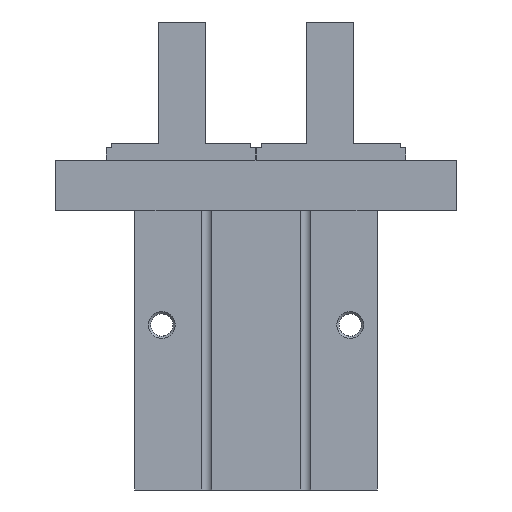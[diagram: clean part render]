
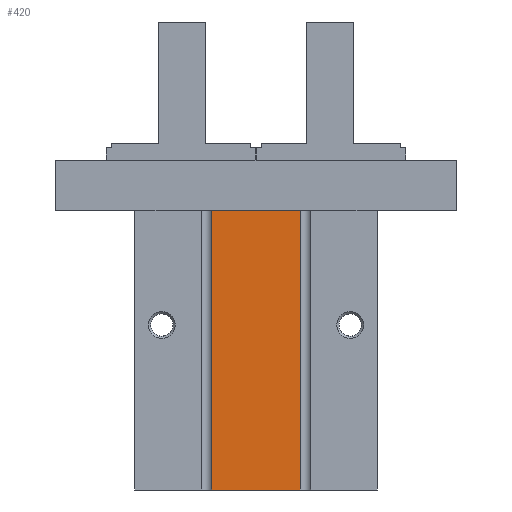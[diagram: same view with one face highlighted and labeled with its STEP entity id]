
A CAD part, front view. The second image highlights one B-rep face of the part: STEP entity #420.
In plain terms, the highlighted planar face has unit normal (0, -1, 0).
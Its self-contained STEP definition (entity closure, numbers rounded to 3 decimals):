
#420 = ADVANCED_FACE( '', ( #914 ), #915, .T. );
#914 = FACE_OUTER_BOUND( '', #1476, .T. );
#915 = PLANE( '', #1477 );
#1476 = EDGE_LOOP( '', ( #2537, #2538, #2539, #2540 ) );
#1477 = AXIS2_PLACEMENT_3D( '', #2541, #2542, #2543 );
#2537 = ORIENTED_EDGE( '', *, *, #3497, .T. );
#2538 = ORIENTED_EDGE( '', *, *, #3125, .F. );
#2539 = ORIENTED_EDGE( '', *, *, #3517, .F. );
#2540 = ORIENTED_EDGE( '', *, *, #3539, .F. );
#2541 = CARTESIAN_POINT( '', ( 14.7, -23.6, 83. ) );
#2542 = DIRECTION( '', ( 0., -1., 0. ) );
#2543 = DIRECTION( '', ( 0., 0., -1. ) );
#3125 = EDGE_CURVE( '', #3665, #3668, #3669, .T. );
#3497 = EDGE_CURVE( '', #4268, #3668, #4269, .T. );
#3517 = EDGE_CURVE( '', #4298, #3665, #4299, .T. );
#3539 = EDGE_CURVE( '', #4268, #4298, #4329, .T. );
#3665 = VERTEX_POINT( '', #4472 );
#3668 = VERTEX_POINT( '', #4476 );
#3669 = LINE( '', #4477, #4478 );
#4268 = VERTEX_POINT( '', #5295 );
#4269 = LINE( '', #5296, #5297 );
#4298 = VERTEX_POINT( '', #5335 );
#4299 = LINE( '', #5336, #5337 );
#4329 = LINE( '', #5385, #5386 );
#4472 = CARTESIAN_POINT( '', ( -13.2, -23.6, 0. ) );
#4476 = CARTESIAN_POINT( '', ( -13.2, -23.6, 83. ) );
#4477 = CARTESIAN_POINT( '', ( -13.2, -23.6, 83. ) );
#4478 = VECTOR( '', #5575, 1000. );
#5295 = CARTESIAN_POINT( '', ( 13.2, -23.6, 83. ) );
#5296 = CARTESIAN_POINT( '', ( 14.7, -23.6, 83. ) );
#5297 = VECTOR( '', #5998, 1000. );
#5335 = CARTESIAN_POINT( '', ( 13.2, -23.6, 0. ) );
#5336 = CARTESIAN_POINT( '', ( 14.7, -23.6, 0. ) );
#5337 = VECTOR( '', #6026, 1000. );
#5385 = CARTESIAN_POINT( '', ( 13.2, -23.6, 83. ) );
#5386 = VECTOR( '', #6048, 1000. );
#5575 = DIRECTION( '', ( 0., 0., 1. ) );
#5998 = DIRECTION( '', ( -1., 0., 0. ) );
#6026 = DIRECTION( '', ( -1., 0., 0. ) );
#6048 = DIRECTION( '', ( 0., 0., -1. ) );
